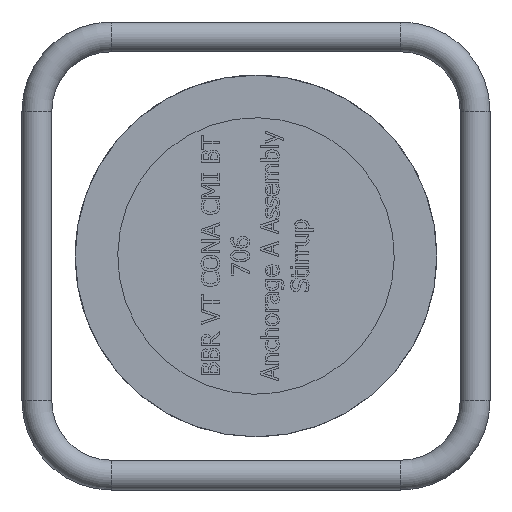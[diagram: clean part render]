
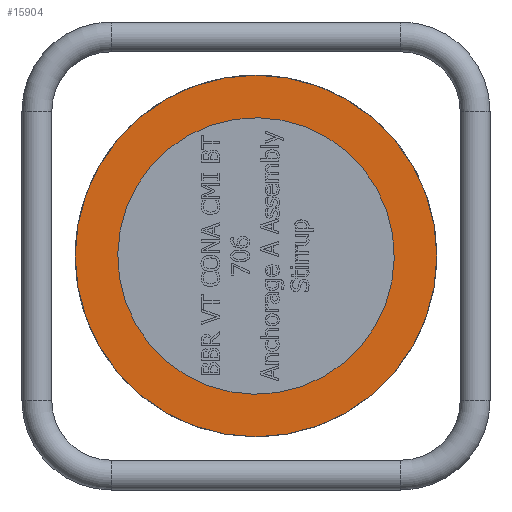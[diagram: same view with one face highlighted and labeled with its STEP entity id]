
A CAD part, left-side view. The second image highlights one B-rep face of the part: STEP entity #15904.
In plain terms, the highlighted planar face has unit normal (-1, 0, 0).
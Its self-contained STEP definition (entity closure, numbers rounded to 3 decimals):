
#104=FACE_BOUND('',#5682,.T.);
#1495=PLANE('',#16482);
#4778=FACE_OUTER_BOUND('',#5681,.T.);
#5681=EDGE_LOOP('',(#13568));
#5682=EDGE_LOOP('',(#13569));
#5856=CIRCLE('',#16478,65.);
#5859=CIRCLE('',#16483,85.);
#7364=VERTEX_POINT('',#28563);
#7367=VERTEX_POINT('',#28572);
#9456=EDGE_CURVE('',#7364,#7364,#5856,.T.);
#9460=EDGE_CURVE('',#7367,#7367,#5859,.T.);
#13568=ORIENTED_EDGE('',*,*,#9460,.T.);
#13569=ORIENTED_EDGE('',*,*,#9456,.T.);
#15904=ADVANCED_FACE('',(#4778,#104),#1495,.T.);
#16478=AXIS2_PLACEMENT_3D('',#28564,#18879,#18880);
#16482=AXIS2_PLACEMENT_3D('',#28571,#18888,#18889);
#16483=AXIS2_PLACEMENT_3D('',#28573,#18890,#18891);
#18879=DIRECTION('center_axis',(1.,0.,0.));
#18880=DIRECTION('ref_axis',(0.,-0.328,-0.945));
#18888=DIRECTION('center_axis',(-1.,0.,0.));
#18889=DIRECTION('ref_axis',(0.,1.,0.));
#18890=DIRECTION('center_axis',(-1.,0.,0.));
#18891=DIRECTION('ref_axis',(0.,0.,
1.));
#28563=CARTESIAN_POINT('',(64.,21.333,61.399));
#28564=CARTESIAN_POINT('Origin',(64.,0.,
0.));
#28571=CARTESIAN_POINT('Origin',(64.,0.,
66.));
#28572=CARTESIAN_POINT('',(64.,0.,-85.));
#28573=CARTESIAN_POINT('Origin',(64.,0.,
0.));
